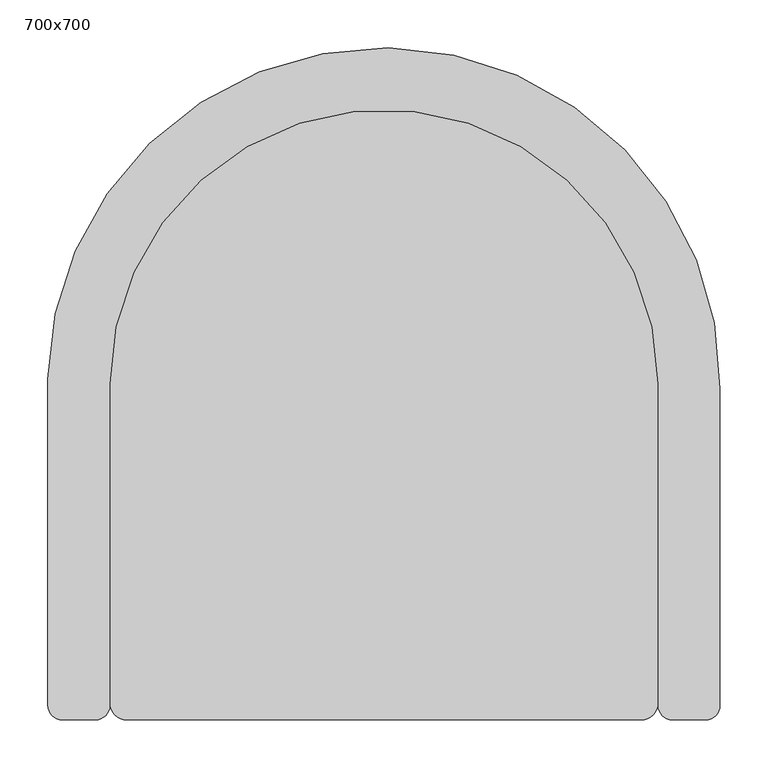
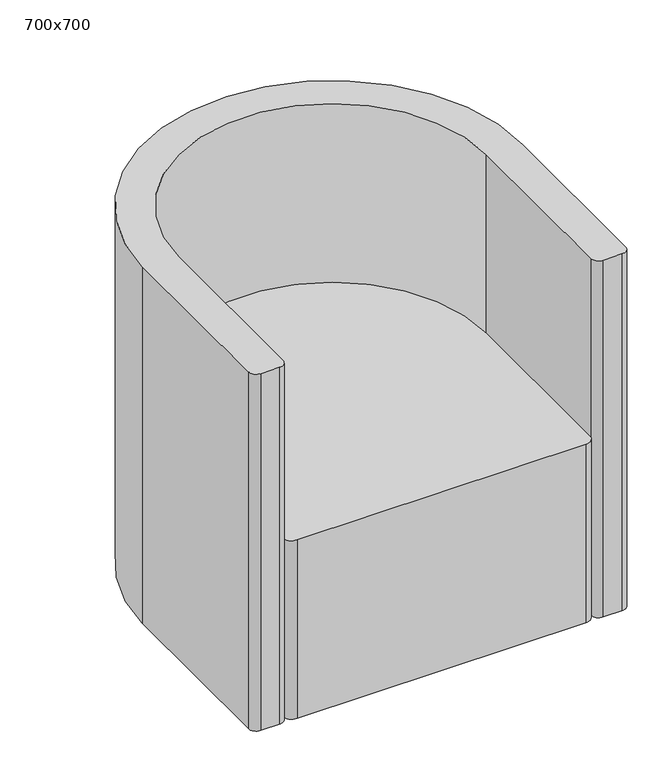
"""IFC4 building model written with IfcOpenShell, lengths in millimetres: furniture geometry, Fu_кресло_LEG : 700x700."""

from ifc_helpers import new_model, si_unit, point, frame_2d, origin, origin_with_axes, place, context, project, spatial, polyline, circle_curve, trimmed, segment, composite_curve, outline, extrude, source, transform, mapped, element, save


def furniture_700x700_f96d27df(model_context):
    return source(origin(), model_context, "Body", "SweptSolid", [
        extrude(outline(composite_curve([segment(polyline([(464.3, 195.1795563), (464.3, -135.0736387)]), True, "CONTINUOUS"), segment(trimmed(circle_curve(frame_2d((449.3, -135.0736387)), 15.0), [point((464.3, -135.0736387))], [point((449.3, -150.0736387))], False, "CARTESIAN"), True, "CONTINUOUS"), segment(polyline([(449.3, -150.0736387), (414.8716158, -150.0736387)]), True, "CONTINUOUS"), segment(trimmed(circle_curve(frame_2d((414.8716158, -135.0736387)), 15.0), [point((414.8716158, -150.0736387))], [point((399.8716158, -135.0736387))], False, "CARTESIAN"), True, "CONTINUOUS"), segment(polyline([(399.8716158, -135.0736387), (399.8716158, 199.9263613)]), True, "CONTINUOUS"), segment(trimmed(circle_curve(frame_2d((114.3, 199.9263613)), 285.5716158), [point((399.8716158, 199.9263613))], [point((-171.2716158, 199.9263613))], True, "CARTESIAN"), True, "CONTINUOUS"), segment(polyline([(-171.2716158, 199.9263613), (-171.2716158, -135.0736387)]), True, "CONTINUOUS"), segment(trimmed(circle_curve(frame_2d((-186.2716158, -135.0736387)), 15.0), [point((-171.2716158, -135.0736387))], [point((-186.2716158, -150.0736387))], False, "CARTESIAN"), True, "CONTINUOUS"), segment(polyline([(-186.2716158, -150.0736387), (-220.7, -150.0736387)]), True, "CONTINUOUS"), segment(trimmed(circle_curve(frame_2d((-220.7, -135.0736387)), 15.0), [point((-220.7, -150.0736387))], [point((-235.7, -135.0736387))], False, "CARTESIAN"), True, "CONTINUOUS"), segment(polyline([(-235.7, -135.0736387), (-235.7, 204.5862038)]), True, "CONTINUOUS"), segment(trimmed(circle_curve(frame_2d((114.3, 199.8828801)), 350.0316004), [point((-235.7, 204.5862038))], [point((464.3, 195.1795563))], False, "CARTESIAN"), True, "CONTINUOUS")], self_intersect=False)), origin_with_axes(), (0.0, 0.0, 1.0), 700.0),
        extrude(outline(composite_curve([segment(polyline([(-171.2716158, -132.0736387), (-171.2716158, 199.9263613)]), True, "CONTINUOUS"), segment(trimmed(circle_curve(frame_2d((114.3, 199.9263613)), 285.5716158), [point((-171.2716158, 199.9263613))], [point((399.8716158, 199.9263613))], False, "CARTESIAN"), True, "CONTINUOUS"), segment(polyline([(399.8716158, 199.9263613), (399.8716158, -132.0736387)]), True, "CONTINUOUS"), segment(trimmed(circle_curve(frame_2d((381.8716158, -132.0736387)), 18.0), [point((399.8716158, -132.0736387))], [point((381.8716158, -150.0736387))], False, "CARTESIAN"), True, "CONTINUOUS"), segment(polyline([(381.8716158, -150.0736387), (-153.2716158, -150.0736387)]), True, "CONTINUOUS"), segment(trimmed(circle_curve(frame_2d((-153.2716158, -132.0736387)), 18.0), [point((-153.2716158, -150.0736387))], [point((-171.2716158, -132.0736387))], False, "CARTESIAN"), True, "CONTINUOUS")], self_intersect=False)), origin_with_axes(), (0.0, 0.0, 1.0), 350.0),
    ])


if __name__ == "__main__":
    model = new_model("IFC4")
    model_context = context("Model", 3, world=origin())
    ifc_project = project(units=[si_unit("LENGTHUNIT", "METRE", prefix="MILLI")], contexts=[model_context])
    site = spatial("IfcSite", under=ifc_project)
    building = spatial("IfcBuilding", under=site)
    placement = place(None, origin())
    furniture_700x700_shape = furniture_700x700_f96d27df(model_context)
    element("IfcFurniture", 1, ObjectType="Fu_кресло_LEG : 700x700", at=placement, inside=building, context=model_context, shape_type="MappedRepresentation", body=[
        mapped(furniture_700x700_shape, transform((0.0, 0.0, 0.0), x_axis=(1.0, 0.0, 0.0), y_axis=(0.0, 1.0, 0.0), z_axis=(0.0, 0.0, 1.0))),
    ])
    save(model, "model.ifc")
